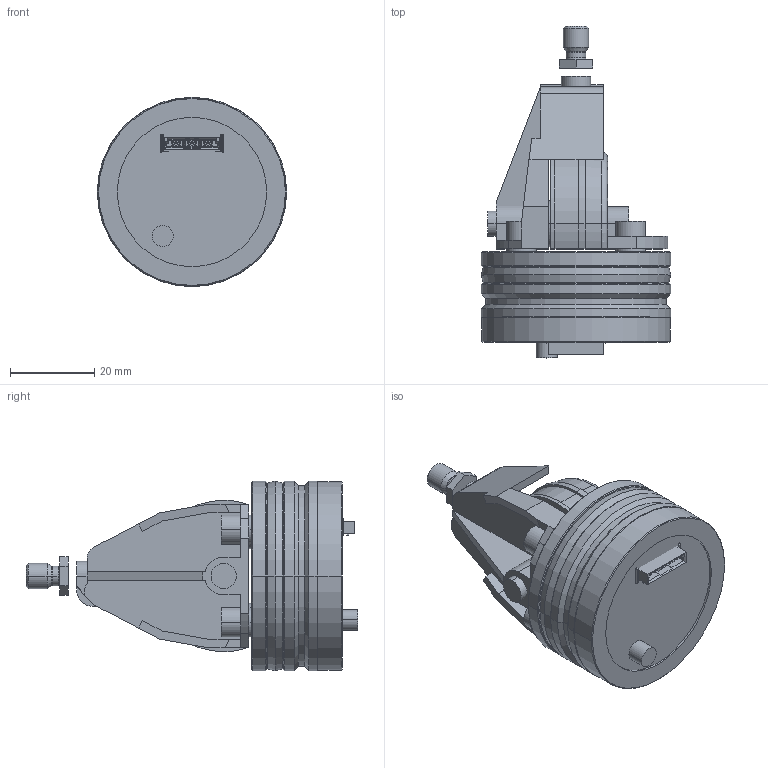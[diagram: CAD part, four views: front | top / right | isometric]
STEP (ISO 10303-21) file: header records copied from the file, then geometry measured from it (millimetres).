
FILE_DESCRIPTION (( 'STEP AP214' ), '1' );
FILE_NAME ('SGH10-0.5m Dummy_209705~0.STEP', '2016-06-07T06:40:44', ( '' ), ( '' ), 'SwSTEP 2.0', 'SolidWorks 2013', '' );
FILE_SCHEMA (( 'AUTOMOTIVE_DESIGN' ));
Length unit declared in the file: millimetre
Products named in the file (1): SGH10-0.5m Dummy_209705~0
Bounding box: 45 x 78.9 x 45 mm (x, y, z)
Volume: 50103 mm3; surface area: 18831.1 mm2
Topology: 7 solids, 7 shells, 744 faces, 1938 edges, 1245 vertices
Faces by surface type: plane 481, cylinder 209, cone 42, torus 7, bspline 5
Entity records: 31228 total; most frequent: CARTESIAN_POINT 4480, ORIENTED_EDGE 3876, DIRECTION 3812, EDGE_CURVE 1938, VECTOR 1410, LINE 1410, VERTEX_POINT 1245, AXIS2_PLACEMENT_3D 1201
